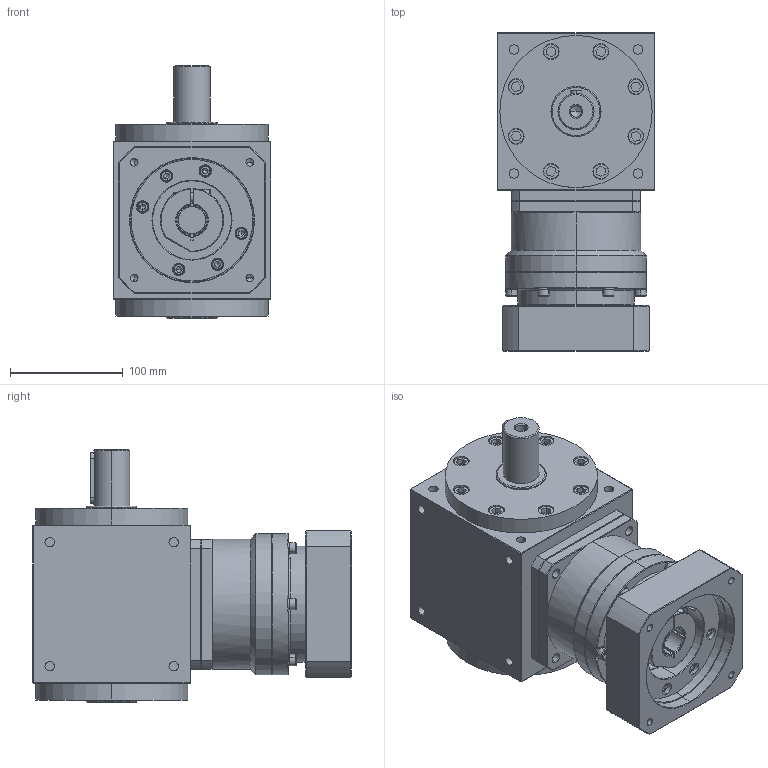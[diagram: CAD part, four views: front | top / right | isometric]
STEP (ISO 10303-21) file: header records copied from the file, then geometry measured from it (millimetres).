
FILE_DESCRIPTION (( 'STEP AP203' ), '1' );
FILE_NAME ('AT140-FL1-L1 24-110-145-M8.STEP', '2024-12-21T06:19:23', ( '' ), ( '' ), 'SwSTEP 2.0', 'SolidWorks 2021', '' );
FILE_SCHEMA (( 'CONFIG_CONTROL_DESIGN' ));
Length unit declared in the file: millimetre
Products named in the file (3): AT140-FL1-L1 24-110-145-M8; VRB-115-L1-S2-P1 24-110-145-M8; AT140-FL1
Assembly tree (2 placements, depth 2):
  AT140-FL1-L1 24-110-145-M8
    AT140-FL1
    VRB-115-L1-S2-P1 24-110-145-M8
Bounding box: 140 x 282.5 x 224 mm (x, y, z)
Volume: 4833614.9 mm3; surface area: 368066.5 mm2
Topology: 33 solids, 33 shells, 1341 faces, 3229 edges, 2017 vertices
Faces by surface type: plane 616, cylinder 503, cone 182, torus 36, bspline 4
Entity records: 40297 total; most frequent: CARTESIAN_POINT 8599, DIRECTION 6861, ORIENTED_EDGE 6334, EDGE_CURVE 3167, AXIS2_PLACEMENT_3D 2636, VERTEX_POINT 2015, LINE 1589, VECTOR 1589
